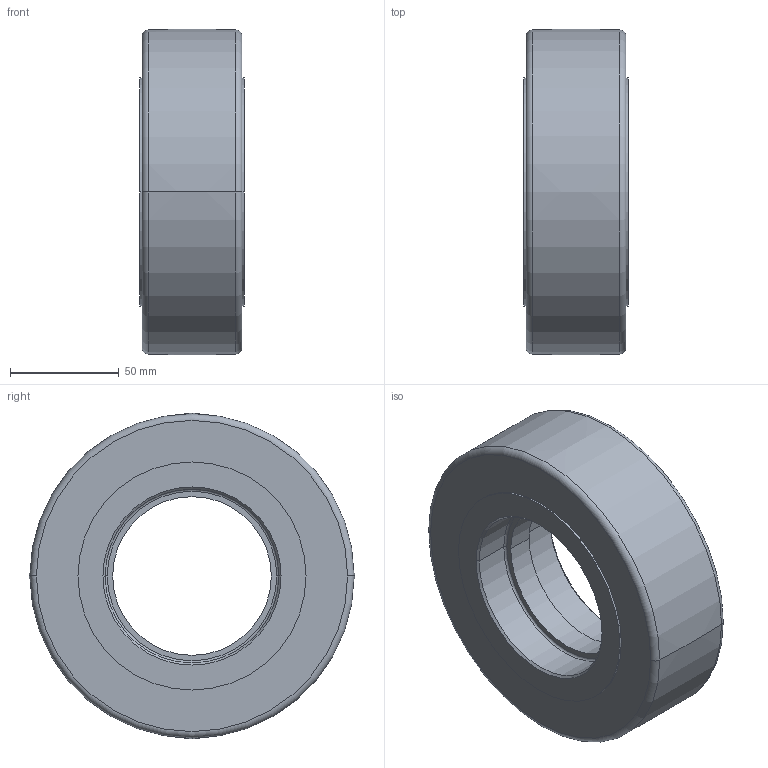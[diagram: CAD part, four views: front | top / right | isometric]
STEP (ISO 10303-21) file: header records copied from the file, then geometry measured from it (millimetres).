
FILE_DESCRIPTION((''),'2;1');
FILE_NAME('312-8-3-1-1_PRT','2021-01-13T',('SYSTEM'),(''),'CREO PARAMETRIC BY PTC INC, 2017480','CREO PARAMETRIC BY PTC INC, 2017480','');
FILE_SCHEMA(('CONFIG_CONTROL_DESIGN'));
Length unit declared in the file: millimetre
Products named in the file (1): 312-8-3-1-1_PRT
Bounding box: 48 x 149.91 x 149.91 mm (x, y, z)
Volume: 594936.4 mm3; surface area: 58978.6 mm2
Topology: 1 solids, 1 shells, 30 faces, 60 edges, 36 vertices
Faces by surface type: cylinder 10, torus 8, plane 6, cone 4, bspline 2
Entity records: 882 total; most frequent: CARTESIAN_POINT 180, DIRECTION 162, ORIENTED_EDGE 120, AXIS2_PLACEMENT_3D 74, EDGE_CURVE 60, CIRCLE 46, VERTEX_POINT 36, EDGE_LOOP 36
